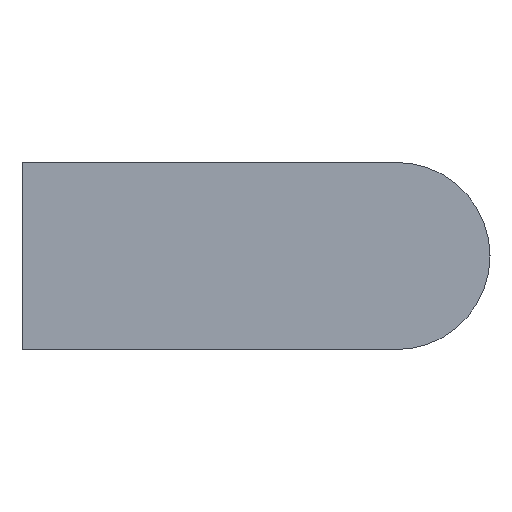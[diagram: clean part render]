
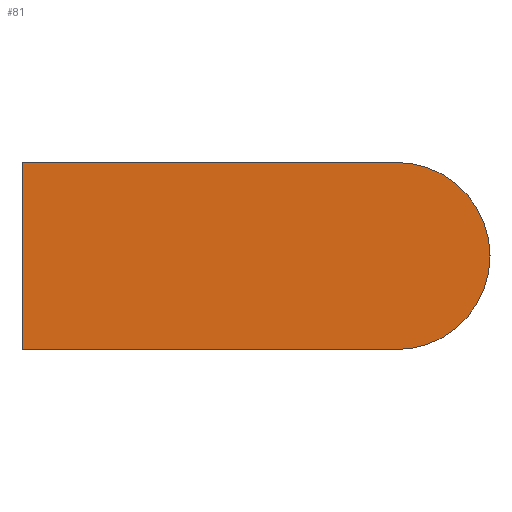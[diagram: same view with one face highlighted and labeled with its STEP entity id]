
A CAD part, left-side view. The second image highlights one B-rep face of the part: STEP entity #81.
In plain terms, the highlighted planar face has unit normal (-1, 0, 0).
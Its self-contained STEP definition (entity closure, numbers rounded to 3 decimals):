
#81 = ADVANCED_FACE( '', ( #165 ), #166, .F. );
#165 = FACE_OUTER_BOUND( '', #242, .T. );
#166 = PLANE( '', #243 );
#242 = EDGE_LOOP( '', ( #391, #392, #393, #394 ) );
#243 = AXIS2_PLACEMENT_3D( '', #395, #396, #397 );
#391 = ORIENTED_EDGE( '', *, *, #465, .F. );
#392 = ORIENTED_EDGE( '', *, *, #447, .F. );
#393 = ORIENTED_EDGE( '', *, *, #418, .F. );
#394 = ORIENTED_EDGE( '', *, *, #440, .F. );
#395 = CARTESIAN_POINT( '', ( -6., -28., 0. ) );
#396 = DIRECTION( '', ( 1., 0., 0. ) );
#397 = DIRECTION( '', ( 0., 0., -1. ) );
#418 = EDGE_CURVE( '', #482, #483, #484, .T. );
#440 = EDGE_CURVE( '', #517, #482, #518, .T. );
#447 = EDGE_CURVE( '', #483, #527, #528, .T. );
#465 = EDGE_CURVE( '', #527, #517, #550, .T. );
#482 = VERTEX_POINT( '', #572 );
#483 = VERTEX_POINT( '', #573 );
#484 = LINE( '', #574, #575 );
#517 = VERTEX_POINT( '', #615 );
#518 = CIRCLE( '', #616, 7. );
#527 = VERTEX_POINT( '', #626 );
#528 = LINE( '', #627, #628 );
#550 = LINE( '', #657, #658 );
#572 = CARTESIAN_POINT( '', ( -6., -28., -7. ) );
#573 = CARTESIAN_POINT( '', ( -6., 0., -7. ) );
#574 = CARTESIAN_POINT( '', ( -6., -28., -7. ) );
#575 = VECTOR( '', #669, 1000. );
#615 = CARTESIAN_POINT( '', ( -6., -28., 7. ) );
#616 = AXIS2_PLACEMENT_3D( '', #701, #702, #703 );
#626 = CARTESIAN_POINT( '', ( -6., 0., 7. ) );
#627 = CARTESIAN_POINT( '', ( -6., 0., -7. ) );
#628 = VECTOR( '', #714, 1000. );
#657 = CARTESIAN_POINT( '', ( -6., 0., 7. ) );
#658 = VECTOR( '', #728, 1000. );
#669 = DIRECTION( '', ( 0., 1., 0. ) );
#701 = CARTESIAN_POINT( '', ( -6., -28., 0. ) );
#702 = DIRECTION( '', ( 1., 0., 0. ) );
#703 = DIRECTION( '', ( 0., 0., -1. ) );
#714 = DIRECTION( '', ( 0., 0., 1. ) );
#728 = DIRECTION( '', ( 0., -1., 0. ) );
